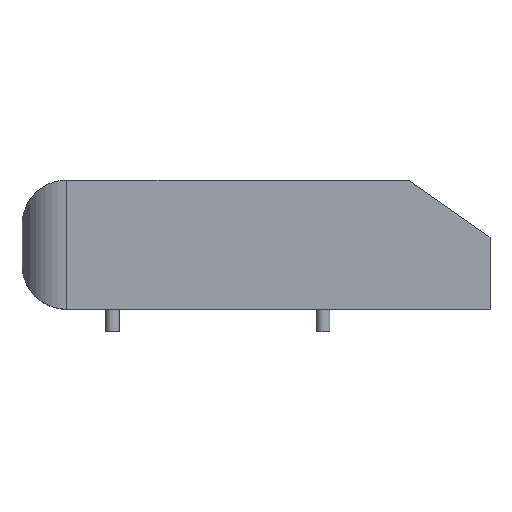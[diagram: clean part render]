
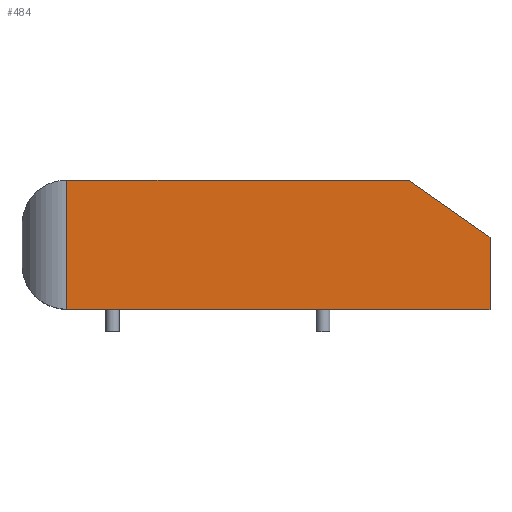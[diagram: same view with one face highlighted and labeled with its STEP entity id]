
A CAD part, top view. The second image highlights one B-rep face of the part: STEP entity #484.
In plain terms, the highlighted planar face has unit normal (0, 0, 1).
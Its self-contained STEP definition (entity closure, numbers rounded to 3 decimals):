
#24 = VERTEX_POINT('',#25);
#25 = CARTESIAN_POINT('',(1044.,50.,389.));
#32 = PLANE('',#33);
#33 = AXIS2_PLACEMENT_3D('',#34,#35,#36);
#34 = CARTESIAN_POINT('',(1044.,50.,0.));
#35 = DIRECTION('',(-1.,0.,0.));
#36 = DIRECTION('',(0.,1.,0.));
#44 = PLANE('',#45);
#45 = AXIS2_PLACEMENT_3D('',#46,#47,#48);
#46 = CARTESIAN_POINT('',(100.,50.,0.));
#47 = DIRECTION('',(0.,1.,0.));
#48 = DIRECTION('',(1.,0.,0.));
#56 = EDGE_CURVE('',#24,#57,#59,.T.);
#57 = VERTEX_POINT('',#58);
#58 = CARTESIAN_POINT('',(1044.,210.666,389.));
#59 = SURFACE_CURVE('',#60,(#64,#71),.PCURVE_S1.);
#60 = LINE('',#61,#62);
#61 = CARTESIAN_POINT('',(1044.,50.,389.));
#62 = VECTOR('',#63,1.);
#63 = DIRECTION('',(0.,1.,0.));
#64 = PCURVE('',#32,#65);
#65 = DEFINITIONAL_REPRESENTATION('',(#66),#70);
#66 = LINE('',#67,#68);
#67 = CARTESIAN_POINT('',(0.,-389.));
#68 = VECTOR('',#69,1.);
#69 = DIRECTION('',(1.,0.));
#70 = ( GEOMETRIC_REPRESENTATION_CONTEXT(2) 
PARAMETRIC_REPRESENTATION_CONTEXT() REPRESENTATION_CONTEXT('2D SPACE',''
  ) );
#71 = PCURVE('',#72,#77);
#72 = PLANE('',#73);
#73 = AXIS2_PLACEMENT_3D('',#74,#75,#76);
#74 = CARTESIAN_POINT('',(100.,50.,389.));
#75 = DIRECTION('',(0.,0.,-1.));
#76 = DIRECTION('',(-1.,0.,0.));
#77 = DEFINITIONAL_REPRESENTATION('',(#78),#82);
#78 = LINE('',#79,#80);
#79 = CARTESIAN_POINT('',(-944.,0.));
#80 = VECTOR('',#81,1.);
#81 = DIRECTION('',(0.,1.));
#82 = ( GEOMETRIC_REPRESENTATION_CONTEXT(2) 
PARAMETRIC_REPRESENTATION_CONTEXT() REPRESENTATION_CONTEXT('2D SPACE',''
  ) );
#100 = PLANE('',#101);
#101 = AXIS2_PLACEMENT_3D('',#102,#103,#104);
#102 = CARTESIAN_POINT('',(1044.,210.666,0.));
#103 = DIRECTION('',(-0.574,-0.819,0.));
#104 = DIRECTION('',(-0.819,0.574,0.));
#144 = VERTEX_POINT('',#145);
#145 = CARTESIAN_POINT('',(100.,50.,389.));
#171 = EDGE_CURVE('',#144,#24,#172,.T.);
#172 = SURFACE_CURVE('',#173,(#177,#184),.PCURVE_S1.);
#173 = LINE('',#174,#175);
#174 = CARTESIAN_POINT('',(100.,50.,389.));
#175 = VECTOR('',#176,1.);
#176 = DIRECTION('',(1.,0.,0.));
#177 = PCURVE('',#44,#178);
#178 = DEFINITIONAL_REPRESENTATION('',(#179),#183);
#179 = LINE('',#180,#181);
#180 = CARTESIAN_POINT('',(0.,-389.));
#181 = VECTOR('',#182,1.);
#182 = DIRECTION('',(1.,0.));
#183 = ( GEOMETRIC_REPRESENTATION_CONTEXT(2) 
PARAMETRIC_REPRESENTATION_CONTEXT() REPRESENTATION_CONTEXT('2D SPACE',''
  ) );
#184 = PCURVE('',#72,#185);
#185 = DEFINITIONAL_REPRESENTATION('',(#186),#190);
#186 = LINE('',#187,#188);
#187 = CARTESIAN_POINT('',(0.,0.));
#188 = VECTOR('',#189,1.);
#189 = DIRECTION('',(-1.,0.));
#190 = ( GEOMETRIC_REPRESENTATION_CONTEXT(2) 
PARAMETRIC_REPRESENTATION_CONTEXT() REPRESENTATION_CONTEXT('2D SPACE',''
  ) );
#358 = EDGE_CURVE('',#57,#359,#361,.T.);
#359 = VERTEX_POINT('',#360);
#360 = CARTESIAN_POINT('',(862.148,338.,389.));
#361 = SURFACE_CURVE('',#362,(#366,#373),.PCURVE_S1.);
#362 = LINE('',#363,#364);
#363 = CARTESIAN_POINT('',(1044.,210.666,389.));
#364 = VECTOR('',#365,1.);
#365 = DIRECTION('',(-0.819,0.574,0.));
#366 = PCURVE('',#100,#367);
#367 = DEFINITIONAL_REPRESENTATION('',(#368),#372);
#368 = LINE('',#369,#370);
#369 = CARTESIAN_POINT('',(0.,-389.));
#370 = VECTOR('',#371,1.);
#371 = DIRECTION('',(1.,0.));
#372 = ( GEOMETRIC_REPRESENTATION_CONTEXT(2) 
PARAMETRIC_REPRESENTATION_CONTEXT() REPRESENTATION_CONTEXT('2D SPACE',''
  ) );
#373 = PCURVE('',#72,#374);
#374 = DEFINITIONAL_REPRESENTATION('',(#375),#379);
#375 = LINE('',#376,#377);
#376 = CARTESIAN_POINT('',(-944.,160.666));
#377 = VECTOR('',#378,1.);
#378 = DIRECTION('',(0.819,0.574));
#379 = ( GEOMETRIC_REPRESENTATION_CONTEXT(2) 
PARAMETRIC_REPRESENTATION_CONTEXT() REPRESENTATION_CONTEXT('2D SPACE',''
  ) );
#397 = PLANE('',#398);
#398 = AXIS2_PLACEMENT_3D('',#399,#400,#401);
#399 = CARTESIAN_POINT('',(862.148,338.,0.));
#400 = DIRECTION('',(0.,-1.,0.));
#401 = DIRECTION('',(-1.,0.,0.));
#484 = ADVANCED_FACE('',(#485),#72,.F.);
#485 = FACE_BOUND('',#486,.F.);
#486 = EDGE_LOOP('',(#487,#488,#516,#537,#538));
#487 = ORIENTED_EDGE('',*,*,#171,.F.);
#488 = ORIENTED_EDGE('',*,*,#489,.F.);
#489 = EDGE_CURVE('',#490,#144,#492,.T.);
#490 = VERTEX_POINT('',#491);
#491 = CARTESIAN_POINT('',(100.,338.,389.));
#492 = SURFACE_CURVE('',#493,(#497,#504),.PCURVE_S1.);
#493 = LINE('',#494,#495);
#494 = CARTESIAN_POINT('',(100.,338.,389.));
#495 = VECTOR('',#496,1.);
#496 = DIRECTION('',(0.,-1.,0.));
#497 = PCURVE('',#72,#498);
#498 = DEFINITIONAL_REPRESENTATION('',(#499),#503);
#499 = LINE('',#500,#501);
#500 = CARTESIAN_POINT('',(0.,288.));
#501 = VECTOR('',#502,1.);
#502 = DIRECTION('',(0.,-1.));
#503 = ( GEOMETRIC_REPRESENTATION_CONTEXT(2) 
PARAMETRIC_REPRESENTATION_CONTEXT() REPRESENTATION_CONTEXT('2D SPACE',''
  ) );
#504 = PCURVE('',#505,#510);
#505 = CYLINDRICAL_SURFACE('',#506,100.);
#506 = AXIS2_PLACEMENT_3D('',#507,#508,#509);
#507 = CARTESIAN_POINT('',(100.,338.,289.));
#508 = DIRECTION('',(0.,1.,0.));
#509 = DIRECTION('',(-1.,0.,0.));
#510 = DEFINITIONAL_REPRESENTATION('',(#511),#515);
#511 = LINE('',#512,#513);
#512 = CARTESIAN_POINT('',(1.571,0.));
#513 = VECTOR('',#514,1.);
#514 = DIRECTION('',(0.,-1.));
#515 = ( GEOMETRIC_REPRESENTATION_CONTEXT(2) 
PARAMETRIC_REPRESENTATION_CONTEXT() REPRESENTATION_CONTEXT('2D SPACE',''
  ) );
#516 = ORIENTED_EDGE('',*,*,#517,.F.);
#517 = EDGE_CURVE('',#359,#490,#518,.T.);
#518 = SURFACE_CURVE('',#519,(#523,#530),.PCURVE_S1.);
#519 = LINE('',#520,#521);
#520 = CARTESIAN_POINT('',(862.148,338.,389.));
#521 = VECTOR('',#522,1.);
#522 = DIRECTION('',(-1.,0.,0.));
#523 = PCURVE('',#72,#524);
#524 = DEFINITIONAL_REPRESENTATION('',(#525),#529);
#525 = LINE('',#526,#527);
#526 = CARTESIAN_POINT('',(-762.148,288.));
#527 = VECTOR('',#528,1.);
#528 = DIRECTION('',(1.,0.));
#529 = ( GEOMETRIC_REPRESENTATION_CONTEXT(2) 
PARAMETRIC_REPRESENTATION_CONTEXT() REPRESENTATION_CONTEXT('2D SPACE',''
  ) );
#530 = PCURVE('',#397,#531);
#531 = DEFINITIONAL_REPRESENTATION('',(#532),#536);
#532 = LINE('',#533,#534);
#533 = CARTESIAN_POINT('',(0.,-389.));
#534 = VECTOR('',#535,1.);
#535 = DIRECTION('',(1.,0.));
#536 = ( GEOMETRIC_REPRESENTATION_CONTEXT(2) 
PARAMETRIC_REPRESENTATION_CONTEXT() REPRESENTATION_CONTEXT('2D SPACE',''
  ) );
#537 = ORIENTED_EDGE('',*,*,#358,.F.);
#538 = ORIENTED_EDGE('',*,*,#56,.F.);
